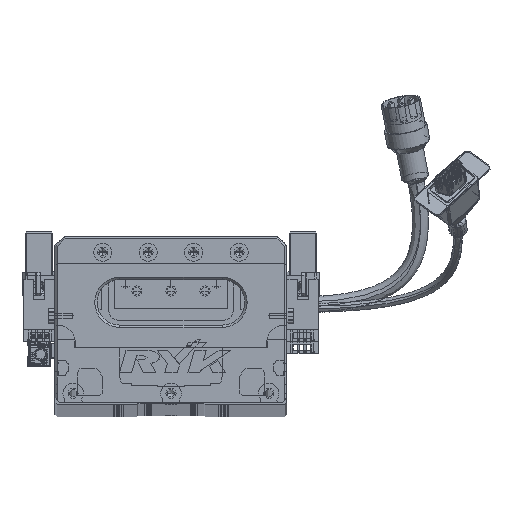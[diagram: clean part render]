
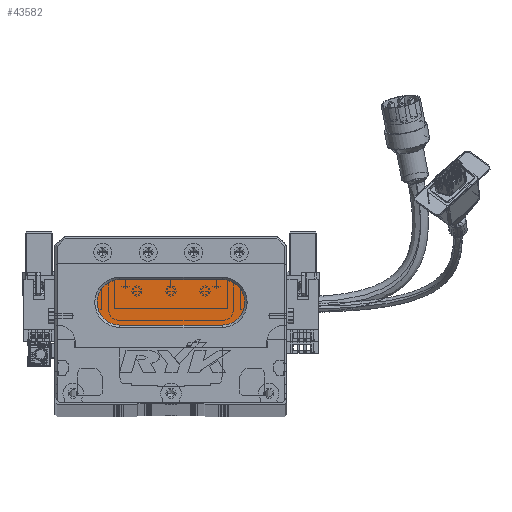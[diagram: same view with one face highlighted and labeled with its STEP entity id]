
A CAD part, top view. The second image highlights one B-rep face of the part: STEP entity #43582.
In plain terms, the highlighted planar face has unit normal (0, 0, 1) as drawn and (0, 0, -1) by its records, which use the part's own axes.
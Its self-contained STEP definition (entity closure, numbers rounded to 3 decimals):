
#1039 = ORIENTED_EDGE ( 'NONE', *, *, #32067, .T. ) ;
#2012 = ORIENTED_EDGE ( 'NONE', *, *, #90983, .T. ) ;
#2394 = ORIENTED_EDGE ( 'NONE', *, *, #32033, .T. ) ;
#5835 = EDGE_CURVE ( 'NONE', #16630, #81514, #32620, .T. ) ;
#6474 = PLANE ( 'NONE',  #82535 ) ;
#9390 = EDGE_CURVE ( 'NONE', #22295, #58618, #11126, .T. ) ;
#11126 = CIRCLE ( 'NONE', #43866, 10. ) ;
#16630 = VERTEX_POINT ( 'NONE', #18465 ) ;
#17498 = LINE ( 'NONE', #78717, #90964 ) ;
#18465 = CARTESIAN_POINT ( 'NONE',  ( 73.5, 54., 13. ) ) ;
#22295 = VERTEX_POINT ( 'NONE', #86464 ) ;
#29628 = CARTESIAN_POINT ( 'NONE',  ( 73.5, 44., 13. ) ) ;
#32033 = EDGE_CURVE ( 'NONE', #81514, #22295, #76323, .T. ) ;
#32067 = EDGE_CURVE ( 'NONE', #58618, #84053, #58508, .T. ) ;
#32620 = CIRCLE ( 'NONE', #33551, 10. ) ;
#33551 = AXIS2_PLACEMENT_3D ( 'NONE', #29628, #86546, #43902 ) ;
#34525 = CARTESIAN_POINT ( 'NONE',  ( 28.5, 44., 13. ) ) ;
#39448 = ORIENTED_EDGE ( 'NONE', *, *, #5835, .T. ) ;
#39575 = FACE_OUTER_BOUND ( 'NONE', #48145, .T. ) ;
#43582 = ADVANCED_FACE ( 'NONE', ( #39575 ), #6474, .T. ) ;
#43866 = AXIS2_PLACEMENT_3D ( 'NONE', #34525, #55954, #70924 ) ;
#43902 = DIRECTION ( 'NONE',  ( -1., 0., 0. ) ) ;
#44254 = AXIS2_PLACEMENT_3D ( 'NONE', #89424, #61711, #53944 ) ;
#48145 = EDGE_LOOP ( 'NONE', ( #39448, #2394, #64627, #1039, #2012 ) ) ;
#49328 = CARTESIAN_POINT ( 'NONE',  ( 73.5, 44., 13. ) ) ;
#53944 = DIRECTION ( 'NONE',  ( -1., 0., 0. ) ) ;
#55729 = CARTESIAN_POINT ( 'NONE',  ( 73.5, 34., 13. ) ) ;
#55954 = DIRECTION ( 'NONE',  ( 0., 0., -1. ) ) ;
#56180 = DIRECTION ( 'NONE',  ( -1., 0., 0. ) ) ;
#56376 = CARTESIAN_POINT ( 'NONE',  ( 28.5, 54., 13. ) ) ;
#58508 = CIRCLE ( 'NONE', #44254, 10. ) ;
#58618 = VERTEX_POINT ( 'NONE', #71497 ) ;
#61711 = DIRECTION ( 'NONE',  ( 0., 0., -1. ) ) ;
#64627 = ORIENTED_EDGE ( 'NONE', *, *, #9390, .T. ) ;
#68519 = VECTOR ( 'NONE', #81370, 1000. ) ;
#70924 = DIRECTION ( 'NONE',  ( -1., 0., 0. ) ) ;
#70937 = DIRECTION ( 'NONE',  ( 1., 0., 0. ) ) ;
#71497 = CARTESIAN_POINT ( 'NONE',  ( 18.5, 44., 13. ) ) ;
#74244 = CARTESIAN_POINT ( 'NONE',  ( 73.5, 34., 13. ) ) ;
#76323 = LINE ( 'NONE', #74244, #68519 ) ;
#77718 = DIRECTION ( 'NONE',  ( 0., 0., -1. ) ) ;
#78717 = CARTESIAN_POINT ( 'NONE',  ( 73.5, 54., 13. ) ) ;
#81370 = DIRECTION ( 'NONE',  ( -1., 0., 0. ) ) ;
#81514 = VERTEX_POINT ( 'NONE', #55729 ) ;
#82535 = AXIS2_PLACEMENT_3D ( 'NONE', #49328, #77718, #56180 ) ;
#84053 = VERTEX_POINT ( 'NONE', #56376 ) ;
#86464 = CARTESIAN_POINT ( 'NONE',  ( 28.5, 34., 13. ) ) ;
#86546 = DIRECTION ( 'NONE',  ( 0., 0., -1. ) ) ;
#89424 = CARTESIAN_POINT ( 'NONE',  ( 28.5, 44., 13. ) ) ;
#90964 = VECTOR ( 'NONE', #70937, 1000. ) ;
#90983 = EDGE_CURVE ( 'NONE', #84053, #16630, #17498, .T. ) ;
